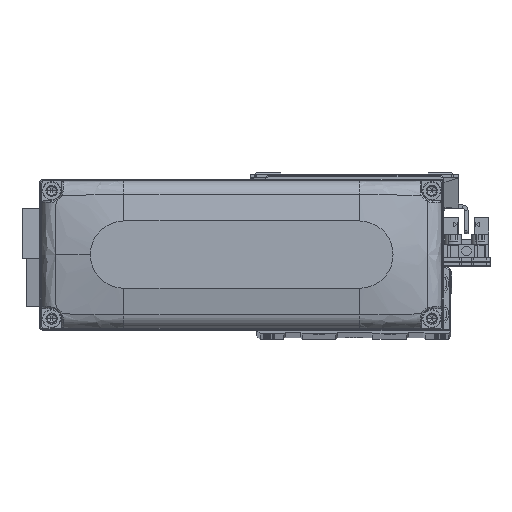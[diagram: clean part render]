
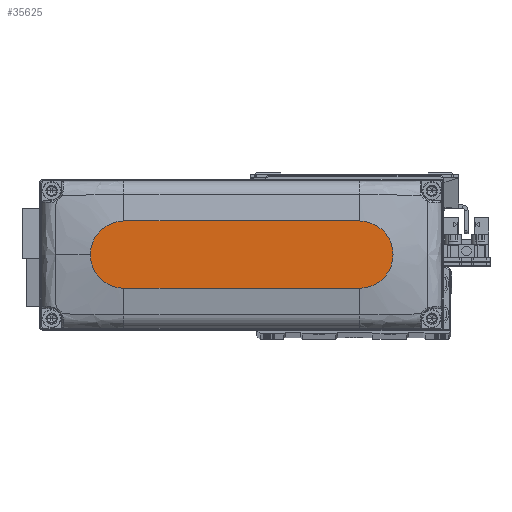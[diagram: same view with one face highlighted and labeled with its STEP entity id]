
A CAD part, top view. The second image highlights one B-rep face of the part: STEP entity #35625.
In plain terms, the highlighted planar face has unit normal (0, 0, 1).
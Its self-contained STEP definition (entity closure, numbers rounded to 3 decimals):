
#139 = DIRECTION ( 'NONE',  ( -1., 0., 0. ) ) ;
#572 = CARTESIAN_POINT ( 'NONE',  ( 35., -10., 28. ) ) ;
#903 = DIRECTION ( 'NONE',  ( 0., 0., 1. ) ) ;
#997 = EDGE_CURVE ( 'NONE', #13173, #14106, #9091, .T. ) ;
#1242 = ORIENTED_EDGE ( 'NONE', *, *, #34525, .T. ) ;
#2234 = CARTESIAN_POINT ( 'NONE',  ( 35., 10., 28. ) ) ;
#3618 = VERTEX_POINT ( 'NONE', #19414 ) ;
#3997 = DIRECTION ( 'NONE',  ( 0., 0., 1. ) ) ;
#5068 = CARTESIAN_POINT ( 'NONE',  ( 35., 0., 28. ) ) ;
#6317 = ORIENTED_EDGE ( 'NONE', *, *, #44327, .T. ) ;
#7447 = FACE_OUTER_BOUND ( 'NONE', #36497, .T. ) ;
#8301 = DIRECTION ( 'NONE',  ( 1., 0., 0. ) ) ;
#8489 = CIRCLE ( 'NONE', #34150, 10. ) ;
#9091 = CIRCLE ( 'NONE', #34757, 10. ) ;
#10835 = EDGE_CURVE ( 'NONE', #14106, #26345, #8489, .T. ) ;
#11238 = AXIS2_PLACEMENT_3D ( 'NONE', #32364, #903, #14902 ) ;
#12446 = VECTOR ( 'NONE', #139, 1000. ) ;
#12548 = DIRECTION ( 'NONE',  ( 1., 0., 0. ) ) ;
#12594 = ORIENTED_EDGE ( 'NONE', *, *, #997, .T. ) ;
#12858 = ORIENTED_EDGE ( 'NONE', *, *, #40536, .T. ) ;
#13173 = VERTEX_POINT ( 'NONE', #572 ) ;
#14106 = VERTEX_POINT ( 'NONE', #36436 ) ;
#14902 = DIRECTION ( 'NONE',  ( 1., 0., 0. ) ) ;
#17601 = LINE ( 'NONE', #31605, #12446 ) ;
#17997 = DIRECTION ( 'NONE',  ( 1., 0., 0. ) ) ;
#18221 = AXIS2_PLACEMENT_3D ( 'NONE', #35453, #3997, #17997 ) ;
#19067 = DIRECTION ( 'NONE',  ( 0., 0., 1. ) ) ;
#19414 = CARTESIAN_POINT ( 'NONE',  ( -35., 10., 28. ) ) ;
#21435 = PLANE ( 'NONE',  #18221 ) ;
#25754 = CARTESIAN_POINT ( 'NONE',  ( 35., 0., 28. ) ) ;
#26345 = VERTEX_POINT ( 'NONE', #2234 ) ;
#29984 = LINE ( 'NONE', #43992, #37198 ) ;
#31028 = CIRCLE ( 'NONE', #11238, 10. ) ;
#31605 = CARTESIAN_POINT ( 'NONE',  ( -35., 10., 28. ) ) ;
#32364 = CARTESIAN_POINT ( 'NONE',  ( -35., 0., 28. ) ) ;
#33073 = DIRECTION ( 'NONE',  ( 1., 0., 0. ) ) ;
#33339 = ORIENTED_EDGE ( 'NONE', *, *, #10835, .T. ) ;
#33593 = CARTESIAN_POINT ( 'NONE',  ( -35., -10., 28. ) ) ;
#33691 = VERTEX_POINT ( 'NONE', #33593 ) ;
#34150 = AXIS2_PLACEMENT_3D ( 'NONE', #25754, #39752, #8301 ) ;
#34525 = EDGE_CURVE ( 'NONE', #33691, #13173, #29984, .T. ) ;
#34757 = AXIS2_PLACEMENT_3D ( 'NONE', #5068, #19067, #33073 ) ;
#35453 = CARTESIAN_POINT ( 'NONE',  ( 0., 0., 28. ) ) ;
#35625 = ADVANCED_FACE ( 'NONE', ( #7447 ), #21435, .T. ) ;
#36436 = CARTESIAN_POINT ( 'NONE',  ( 45., 0., 28. ) ) ;
#36497 = EDGE_LOOP ( 'NONE', ( #6317, #12858, #1242, #12594, #33339 ) ) ;
#37198 = VECTOR ( 'NONE', #12548, 1000. ) ;
#39752 = DIRECTION ( 'NONE',  ( 0., 0., 1. ) ) ;
#40536 = EDGE_CURVE ( 'NONE', #3618, #33691, #31028, .T. ) ;
#43992 = CARTESIAN_POINT ( 'NONE',  ( -35., -10., 28. ) ) ;
#44327 = EDGE_CURVE ( 'NONE', #26345, #3618, #17601, .T. ) ;
